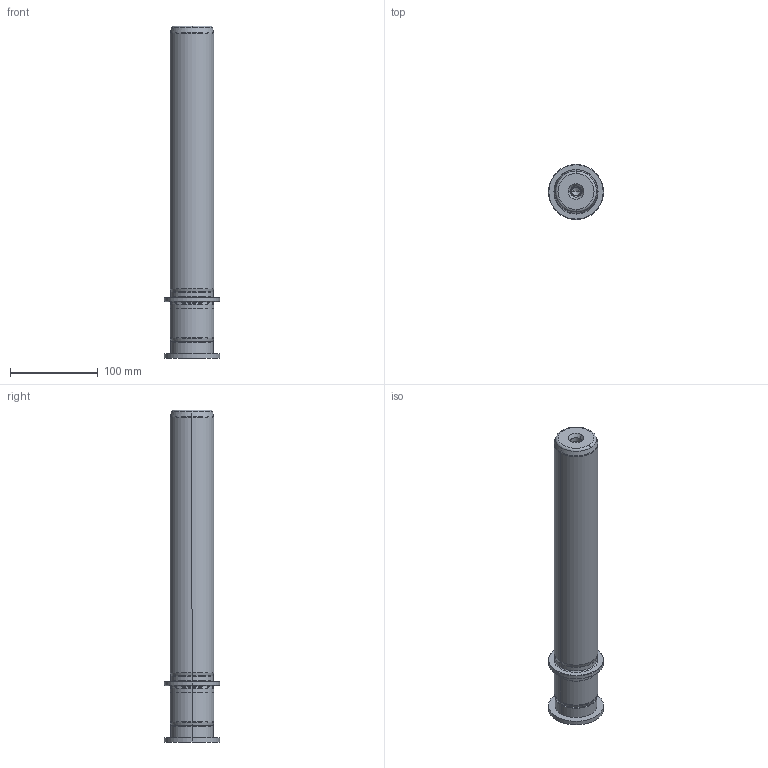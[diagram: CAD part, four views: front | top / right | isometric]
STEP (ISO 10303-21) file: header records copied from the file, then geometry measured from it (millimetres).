
FILE_DESCRIPTION((''),'2;1');
FILE_NAME('P22_050_315.stp','2009-11-02T10:52:09',(''),(''),'Mechanical Desktop 2009','Mechanical Desktop 2009',', , ');
FILE_SCHEMA(('CONFIG_CONTROL_DESIGN'));
Length unit declared in the file: millimetre
Products named in the file (2): Product; blmdl1
Assembly tree (1 placements, depth 2):
  Product
    blmdl1
Bounding box: 63 x 63 x 379 mm (x, y, z)
Volume: 742264.8 mm3; surface area: 77196.7 mm2
Topology: 3 solids, 3 shells, 99 faces, 237 edges, 149 vertices
Faces by surface type: cylinder 32, cone 28, plane 19, torus 10, bspline 10
Entity records: 3419 total; most frequent: CARTESIAN_POINT 923, DIRECTION 570, ORIENTED_EDGE 466, AXIS2_PLACEMENT_3D 246, EDGE_CURVE 233, CIRCLE 155, VERTEX_POINT 149, EDGE_LOOP 110
